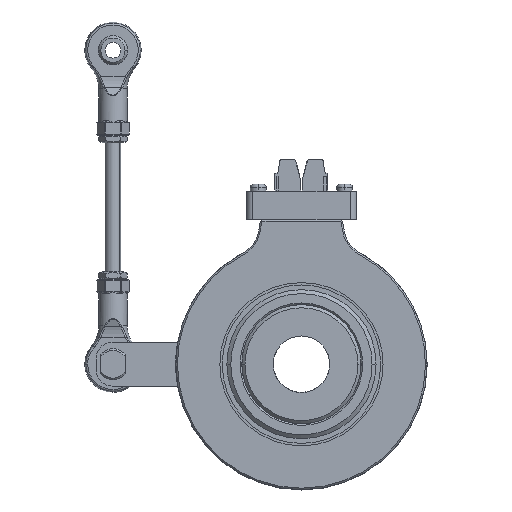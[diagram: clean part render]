
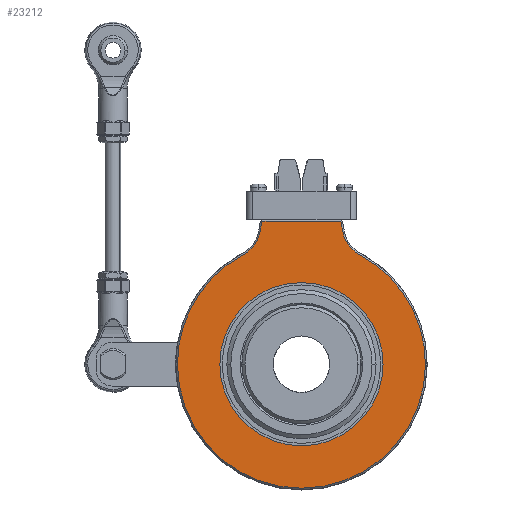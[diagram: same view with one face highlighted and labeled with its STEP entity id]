
A CAD part, left-side view. The second image highlights one B-rep face of the part: STEP entity #23212.
In plain terms, the highlighted planar face has unit normal (-1, 0, 0).
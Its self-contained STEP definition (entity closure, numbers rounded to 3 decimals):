
#1716 = VERTEX_POINT ( 'NONE', #20329 ) ;
#2091 = DIRECTION ( 'NONE',  ( -1., 0., 0. ) ) ;
#2599 = ORIENTED_EDGE ( 'NONE', *, *, #100698, .T. ) ;
#3576 = ORIENTED_EDGE ( 'NONE', *, *, #109606, .T. ) ;
#9972 = FACE_OUTER_BOUND ( 'NONE', #44455, .T. ) ;
#12576 = DIRECTION ( 'NONE',  ( 0., 0.174, -0.985 ) ) ;
#14423 = DIRECTION ( 'NONE',  ( 0., 1., 0. ) ) ;
#14789 = VECTOR ( 'NONE', #61316, 1000. ) ;
#15315 = ORIENTED_EDGE ( 'NONE', *, *, #110693, .T. ) ;
#18574 = LINE ( 'NONE', #52339, #14789 ) ;
#18609 = CIRCLE ( 'NONE', #101296, 39.5 ) ;
#20329 = CARTESIAN_POINT ( 'NONE',  ( -26., 18.551, 34.873 ) ) ;
#20937 = EDGE_CURVE ( 'NONE', #91941, #98123, #23621, .T. ) ;
#23212 = ADVANCED_FACE ( 'NONE', ( #9972, #95974 ), #61692, .T. ) ;
#23362 = VECTOR ( 'NONE', #74352, 1000. ) ;
#23621 = CIRCLE ( 'NONE', #107973, 39.5 ) ;
#27398 = CARTESIAN_POINT ( 'NONE',  ( -26., -18.551, 34.873 ) ) ;
#27791 = LINE ( 'NONE', #89053, #100345 ) ;
#30475 = CARTESIAN_POINT ( 'NONE',  ( -26., -18.776, 10.364 ) ) ;
#32496 = CARTESIAN_POINT ( 'NONE',  ( -26., -13.141, 42.32 ) ) ;
#32977 = DIRECTION ( 'NONE',  ( 1., 0., 0. ) ) ;
#35416 = ORIENTED_EDGE ( 'NONE', *, *, #20937, .T. ) ;
#35678 = DIRECTION ( 'NONE',  ( 1., 0., 0. ) ) ;
#36223 = CARTESIAN_POINT ( 'NONE',  ( -26., 23.482, 44.143 ) ) ;
#36378 = DIRECTION ( 'NONE',  ( 0., -1., 0. ) ) ;
#36486 = EDGE_CURVE ( 'NONE', #1716, #91941, #104093, .T. ) ;
#36503 = AXIS2_PLACEMENT_3D ( 'NONE', #91453, #32977, #14423 ) ;
#36944 = DIRECTION ( 'NONE',  ( -1., 0., 0. ) ) ;
#38030 = DIRECTION ( 'NONE',  ( 1., 0., 0. ) ) ;
#38046 = AXIS2_PLACEMENT_3D ( 'NONE', #53264, #2091, #36378 ) ;
#39119 = DIRECTION ( 'NONE',  ( -1., 0., 0. ) ) ;
#39157 = DIRECTION ( 'NONE',  ( 0., 1., 0. ) ) ;
#40695 = CIRCLE ( 'NONE', #98118, 26. ) ;
#44095 = AXIS2_PLACEMENT_3D ( 'NONE', #36223, #35678, #60977 ) ;
#44455 = EDGE_LOOP ( 'NONE', ( #60836, #47876, #85568, #104515, #75290, #35416, #3576, #2599 ) ) ;
#45485 = CIRCLE ( 'NONE', #36503, 26. ) ;
#46208 = DIRECTION ( 'NONE',  ( 0., -1., 0. ) ) ;
#46464 = CARTESIAN_POINT ( 'NONE',  ( -26., 0., 0. ) ) ;
#47876 = ORIENTED_EDGE ( 'NONE', *, *, #71024, .T. ) ;
#49198 = EDGE_CURVE ( 'NONE', #58172, #98890, #27791, .T. ) ;
#51936 = EDGE_CURVE ( 'NONE', #92748, #85184, #73796, .T. ) ;
#52339 = CARTESIAN_POINT ( 'NONE',  ( -26., 40., 45.5 ) ) ;
#52722 = CARTESIAN_POINT ( 'NONE',  ( -26., 0., 0. ) ) ;
#53264 = CARTESIAN_POINT ( 'NONE',  ( -26., 40., 0. ) ) ;
#54090 = DIRECTION ( 'NONE',  ( -1., 0., 0. ) ) ;
#54383 = VERTEX_POINT ( 'NONE', #27398 ) ;
#54862 = CARTESIAN_POINT ( 'NONE',  ( -26., 12.58, 45.5 ) ) ;
#55415 = ORIENTED_EDGE ( 'NONE', *, *, #79026, .T. ) ;
#55732 = CIRCLE ( 'NONE', #82707, 10.5 ) ;
#58172 = VERTEX_POINT ( 'NONE', #54862 ) ;
#60823 = EDGE_CURVE ( 'NONE', #98890, #1716, #103420, .T. ) ;
#60836 = ORIENTED_EDGE ( 'NONE', *, *, #51936, .T. ) ;
#60977 = DIRECTION ( 'NONE',  ( 0., -1., 0. ) ) ;
#60989 = AXIS2_PLACEMENT_3D ( 'NONE', #52722, #36944, #87000 ) ;
#61316 = DIRECTION ( 'NONE',  ( 0., 1., 0. ) ) ;
#61692 = PLANE ( 'NONE',  #38046 ) ;
#66103 = CARTESIAN_POINT ( 'NONE',  ( -26., 39.5, 0. ) ) ;
#68627 = CARTESIAN_POINT ( 'NONE',  ( -26., -26., 0. ) ) ;
#69718 = DIRECTION ( 'NONE',  ( 1., 0., 0. ) ) ;
#71024 = EDGE_CURVE ( 'NONE', #85184, #58172, #18574, .T. ) ;
#71190 = CARTESIAN_POINT ( 'NONE',  ( -26., 0., 0. ) ) ;
#73796 = LINE ( 'NONE', #30475, #23362 ) ;
#74352 = DIRECTION ( 'NONE',  ( 0., 0.174, 0.985 ) ) ;
#75290 = ORIENTED_EDGE ( 'NONE', *, *, #36486, .T. ) ;
#76512 = CARTESIAN_POINT ( 'NONE',  ( -26., -23.482, 44.143 ) ) ;
#78451 = EDGE_LOOP ( 'NONE', ( #15315, #55415 ) ) ;
#78498 = VERTEX_POINT ( 'NONE', #68627 ) ;
#79026 = EDGE_CURVE ( 'NONE', #78498, #98538, #40695, .T. ) ;
#82707 = AXIS2_PLACEMENT_3D ( 'NONE', #76512, #69718, #102337 ) ;
#85184 = VERTEX_POINT ( 'NONE', #97470 ) ;
#85568 = ORIENTED_EDGE ( 'NONE', *, *, #49198, .T. ) ;
#87000 = DIRECTION ( 'NONE',  ( 0., -1., 0. ) ) ;
#89053 = CARTESIAN_POINT ( 'NONE',  ( -26., 21.188, -3.317 ) ) ;
#90257 = DIRECTION ( 'NONE',  ( 0., -1., 0. ) ) ;
#91453 = CARTESIAN_POINT ( 'NONE',  ( -26., 0., 0. ) ) ;
#91941 = VERTEX_POINT ( 'NONE', #66103 ) ;
#92748 = VERTEX_POINT ( 'NONE', #32496 ) ;
#94903 = CARTESIAN_POINT ( 'NONE',  ( -26., -39.5, 0. ) ) ;
#95710 = CARTESIAN_POINT ( 'NONE',  ( -26., 0., 0. ) ) ;
#95729 = CARTESIAN_POINT ( 'NONE',  ( -26., 13.141, 42.32 ) ) ;
#95974 = FACE_BOUND ( 'NONE', #78451, .T. ) ;
#96943 = CARTESIAN_POINT ( 'NONE',  ( -26., 26., 0. ) ) ;
#97470 = CARTESIAN_POINT ( 'NONE',  ( -26., -12.58, 45.5 ) ) ;
#98118 = AXIS2_PLACEMENT_3D ( 'NONE', #46464, #38030, #39157 ) ;
#98123 = VERTEX_POINT ( 'NONE', #94903 ) ;
#98538 = VERTEX_POINT ( 'NONE', #96943 ) ;
#98890 = VERTEX_POINT ( 'NONE', #95729 ) ;
#100345 = VECTOR ( 'NONE', #12576, 1000. ) ;
#100698 = EDGE_CURVE ( 'NONE', #54383, #92748, #55732, .T. ) ;
#101296 = AXIS2_PLACEMENT_3D ( 'NONE', #95710, #54090, #46208 ) ;
#102337 = DIRECTION ( 'NONE',  ( 0., -1., 0. ) ) ;
#103420 = CIRCLE ( 'NONE', #44095, 10.5 ) ;
#104093 = CIRCLE ( 'NONE', #60989, 39.5 ) ;
#104515 = ORIENTED_EDGE ( 'NONE', *, *, #60823, .T. ) ;
#107973 = AXIS2_PLACEMENT_3D ( 'NONE', #71190, #39119, #90257 ) ;
#109606 = EDGE_CURVE ( 'NONE', #98123, #54383, #18609, .T. ) ;
#110693 = EDGE_CURVE ( 'NONE', #98538, #78498, #45485, .T. ) ;
